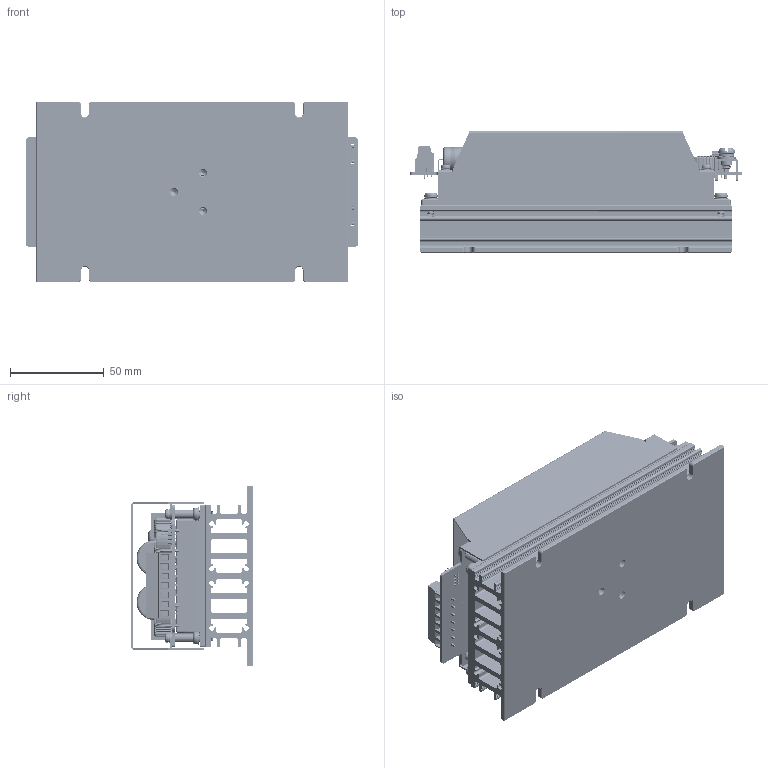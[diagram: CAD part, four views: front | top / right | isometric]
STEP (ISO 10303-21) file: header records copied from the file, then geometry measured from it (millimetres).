
FILE_DESCRIPTION (( 'STEP AP203' ), '1' );
FILE_NAME ('CHB200W12-72S CMFD HS成品圖2024.04.30.STEP', '2024-04-30T05:46:29', ( '' ), ( '' ), 'SwSTEP 2.0', 'SolidWorks 2020', '' );
FILE_SCHEMA (( 'CONFIG_CONTROL_DESIGN' ));
Products named in the file (1): CHB200W12-72S CMFD HS成品圖2024.04.30
Bounding box: 177.16 x 64.9 x 96.52 mm (x, y, z)
Volume: 324513.3 mm3; surface area: 216628.4 mm2
Topology: 35 solids, 49 shells, 4385 faces, 11730 edges, 7497 vertices
Faces by surface type: plane 1806, cylinder 1365, torus 781, bspline 292, cone 134, sphere 7
Full cylindrical faces by diameter (mm): 0.6 x12, 0.7 x2, 0.8 x80, 1 x10, 1.2 x14, 1.4 x7, 2 x12, 2.2 x12, 2.7 x2, 3.2 x12, 3.25 x1, 3.5 x4, 3.8 x9, 3.9 x24, 4 x7, 4.3 x8, 4.45 x4, 4.5 x4, 4.6 x4, 4.7 x12, 5 x10, 6 x2, 7 x4, 8 x3, 8.8 x2, 9.8 x2, 12 x4, 12.6 x2, 14 x2, 18 x2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
Entity records: 224232 total; most frequent: CARTESIAN_POINT 123587, ORIENTED_EDGE 21972, DIRECTION 18917, EDGE_CURVE 10986, VERTEX_POINT 7266, AXIS2_PLACEMENT_3D 7018, EDGE_LOOP 5232, VECTOR 4881
